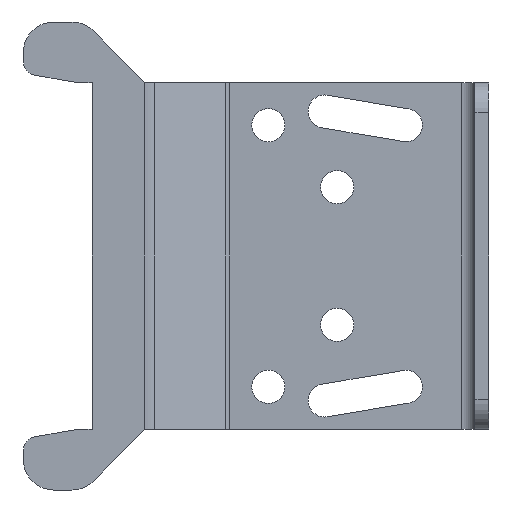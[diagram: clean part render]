
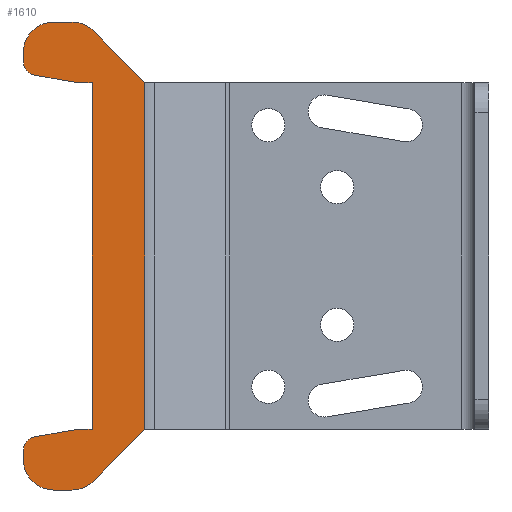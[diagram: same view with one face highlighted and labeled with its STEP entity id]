
A CAD part, left-side view. The second image highlights one B-rep face of the part: STEP entity #1610.
In plain terms, the highlighted planar face has unit normal (-1, 0, 0).
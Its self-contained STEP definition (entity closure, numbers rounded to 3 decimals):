
#1 = ORIENTED_EDGE ( 'NONE', *, *, #1350, .F. ) ;
#6 = ORIENTED_EDGE ( 'NONE', *, *, #1352, .F. ) ;
#8 = ORIENTED_EDGE ( 'NONE', *, *, #1349, .T. ) ;
#13 = ORIENTED_EDGE ( 'NONE', *, *, #1351, .T. ) ;
#14 = ORIENTED_EDGE ( 'NONE', *, *, #1357, .F. ) ;
#16 = ORIENTED_EDGE ( 'NONE', *, *, #1346, .F. ) ;
#19 = ORIENTED_EDGE ( 'NONE', *, *, #1356, .F. ) ;
#23 = ORIENTED_EDGE ( 'NONE', *, *, #1416, .F. ) ;
#25 = ORIENTED_EDGE ( 'NONE', *, *, #1353, .T. ) ;
#29 = ORIENTED_EDGE ( 'NONE', *, *, #1347, .T. ) ;
#30 = ORIENTED_EDGE ( 'NONE', *, *, #1355, .T. ) ;
#32 = ORIENTED_EDGE ( 'NONE', *, *, #1421, .F. ) ;
#33 = ORIENTED_EDGE ( 'NONE', *, *, #1348, .T. ) ;
#37 = ORIENTED_EDGE ( 'NONE', *, *, #1423, .T. ) ;
#38 = ORIENTED_EDGE ( 'NONE', *, *, #1354, .F. ) ;
#40 = ORIENTED_EDGE ( 'NONE', *, *, #1415, .T. ) ;
#44 = ORIENTED_EDGE ( 'NONE', *, *, #1358, .F. ) ;
#45 = ORIENTED_EDGE ( 'NONE', *, *, #1418, .T. ) ;
#92 = VECTOR ( 'NONE', #744, 1000. ) ;
#102 = LINE ( 'NONE', #755, #222 ) ;
#109 = VECTOR ( 'NONE', #749, 1000. ) ;
#121 = LINE ( 'NONE', #748, #92 ) ;
#140 = CIRCLE ( 'NONE', #1275, 5.5 ) ;
#146 = LINE ( 'NONE', #742, #256 ) ;
#196 = LINE ( 'NONE', #728, #239 ) ;
#198 = LINE ( 'NONE', #739, #259 ) ;
#209 = VECTOR ( 'NONE', #743, 1000. ) ;
#217 = VECTOR ( 'NONE', #738, 1000. ) ;
#222 = VECTOR ( 'NONE', #761, 1000. ) ;
#228 = VECTOR ( 'NONE', #760, 1000. ) ;
#229 = CIRCLE ( 'NONE', #1274, 5.5 ) ;
#239 = VECTOR ( 'NONE', #736, 1000. ) ;
#240 = LINE ( 'NONE', #734, #262 ) ;
#253 = LINE ( 'NONE', #741, #209 ) ;
#256 = VECTOR ( 'NONE', #737, 1000. ) ;
#259 = VECTOR ( 'NONE', #740, 1000. ) ;
#260 = LINE ( 'NONE', #731, #217 ) ;
#262 = VECTOR ( 'NONE', #735, 1000. ) ;
#266 = LINE ( 'NONE', #753, #109 ) ;
#267 = LINE ( 'NONE', #759, #228 ) ;
#276 = CIRCLE ( 'NONE', #1276, 2.5 ) ;
#281 = VECTOR ( 'NONE', #829, 1000. ) ;
#282 = CIRCLE ( 'NONE', #1263, 5.5 ) ;
#285 = VECTOR ( 'NONE', #820, 1000. ) ;
#292 = LINE ( 'NONE', #813, #285 ) ;
#293 = CIRCLE ( 'NONE', #1262, 5.5 ) ;
#296 = LINE ( 'NONE', #833, #281 ) ;
#300 = CIRCLE ( 'NONE', #1261, 2.5 ) ;
#431 = PLANE ( 'NONE',  #1236 ) ;
#432 = CARTESIAN_POINT ( 'NONE',  ( -7.63, 62., 31.5 ) ) ;
#437 = DIRECTION ( 'NONE',  ( -1., 0., 0. ) ) ;
#438 = DIRECTION ( 'NONE',  ( 0., -1., 0. ) ) ;
#460 = CARTESIAN_POINT ( 'NONE',  ( -7.63, 84.5, 37. ) ) ;
#462 = CARTESIAN_POINT ( 'NONE',  ( -7.63, 75.701, 42.5 ) ) ;
#463 = CARTESIAN_POINT ( 'NONE',  ( -7.63, 74.5, 31.441 ) ) ;
#466 = CARTESIAN_POINT ( 'NONE',  ( -7.63, 72., 31.441 ) ) ;
#467 = CARTESIAN_POINT ( 'NONE',  ( -7.63, 75.701, -42.5 ) ) ;
#469 = CARTESIAN_POINT ( 'NONE',  ( -7.63, 72., -31.441 ) ) ;
#470 = CARTESIAN_POINT ( 'NONE',  ( -7.63, 62.423, -31.5 ) ) ;
#472 = CARTESIAN_POINT ( 'NONE',  ( -7.63, 84.5, -35.302 ) ) ;
#477 = CARTESIAN_POINT ( 'NONE',  ( -7.63, 84.5, 35.302 ) ) ;
#478 = CARTESIAN_POINT ( 'NONE',  ( -7.63, 82.434, 32.84 ) ) ;
#479 = CARTESIAN_POINT ( 'NONE',  ( -7.63, 79., 42.5 ) ) ;
#485 = CARTESIAN_POINT ( 'NONE',  ( -7.63, 74.5, -31.441 ) ) ;
#486 = CARTESIAN_POINT ( 'NONE',  ( -7.63, 79., -42.5 ) ) ;
#490 = CARTESIAN_POINT ( 'NONE',  ( -7.63, 82.434, -32.84 ) ) ;
#491 = CARTESIAN_POINT ( 'NONE',  ( -7.63, 71.812, 40.889 ) ) ;
#493 = CARTESIAN_POINT ( 'NONE',  ( -7.63, 71.812, -40.889 ) ) ;
#512 = CARTESIAN_POINT ( 'NONE',  ( -7.63, 84.5, -37. ) ) ;
#515 = CARTESIAN_POINT ( 'NONE',  ( -7.63, 62.423, 31.5 ) ) ;
#728 = CARTESIAN_POINT ( 'NONE',  ( -7.63, 62., 31.441 ) ) ;
#731 = CARTESIAN_POINT ( 'NONE',  ( -7.63, 72., 31.5 ) ) ;
#734 = CARTESIAN_POINT ( 'NONE',  ( -7.63, 84.5, 33.204 ) ) ;
#735 = DIRECTION ( 'NONE',  ( 0., 0.985, 0.174 ) ) ;
#736 = DIRECTION ( 'NONE',  ( 0., -1., 0. ) ) ;
#737 = DIRECTION ( 'NONE',  ( 0., 0., 1. ) ) ;
#738 = DIRECTION ( 'NONE',  ( 0., 0., -1. ) ) ;
#739 = CARTESIAN_POINT ( 'NONE',  ( -7.63, 62., -31.441 ) ) ;
#740 = DIRECTION ( 'NONE',  ( 0., 1., 0. ) ) ;
#741 = CARTESIAN_POINT ( 'NONE',  ( -7.63, 84.5, -33.204 ) ) ;
#742 = CARTESIAN_POINT ( 'NONE',  ( -7.63, 84.5, -42.5 ) ) ;
#743 = DIRECTION ( 'NONE',  ( 0., -0.985, 0.174 ) ) ;
#744 = DIRECTION ( 'NONE',  ( 0., 1., 0. ) ) ;
#745 = CARTESIAN_POINT ( 'NONE',  ( -7.63, 82., -35.302 ) ) ;
#746 = DIRECTION ( 'NONE',  ( -1., 0., 0. ) ) ;
#747 = DIRECTION ( 'NONE',  ( 0., -1., 0. ) ) ;
#748 = CARTESIAN_POINT ( 'NONE',  ( -7.63, 73.423, -42.5 ) ) ;
#749 = DIRECTION ( 'NONE',  ( 0., 0.707, -0.707 ) ) ;
#750 = CARTESIAN_POINT ( 'NONE',  ( -7.63, 79., -37. ) ) ;
#751 = DIRECTION ( 'NONE',  ( -1., 0., 0. ) ) ;
#752 = DIRECTION ( 'NONE',  ( 0., -1., 0. ) ) ;
#753 = CARTESIAN_POINT ( 'NONE',  ( -7.63, 62.423, -31.5 ) ) ;
#755 = CARTESIAN_POINT ( 'NONE',  ( -7.63, 62.423, 31.5 ) ) ;
#756 = CARTESIAN_POINT ( 'NONE',  ( -7.63, 75.701, -37. ) ) ;
#757 = DIRECTION ( 'NONE',  ( -1., 0., 0. ) ) ;
#758 = DIRECTION ( 'NONE',  ( 0., -1., 0. ) ) ;
#759 = CARTESIAN_POINT ( 'NONE',  ( -7.63, 62.423, 31.5 ) ) ;
#760 = DIRECTION ( 'NONE',  ( 0., 0., -1. ) ) ;
#761 = DIRECTION ( 'NONE',  ( 0., -0.707, -0.707 ) ) ;
#813 = CARTESIAN_POINT ( 'NONE',  ( -7.63, 73.423, 42.5 ) ) ;
#820 = DIRECTION ( 'NONE',  ( 0., -1., 0. ) ) ;
#829 = DIRECTION ( 'NONE',  ( 0., 0., 1. ) ) ;
#830 = CARTESIAN_POINT ( 'NONE',  ( -7.63, 75.701, 37. ) ) ;
#831 = DIRECTION ( 'NONE',  ( -1., 0., 0. ) ) ;
#832 = DIRECTION ( 'NONE',  ( 0., -1., 0. ) ) ;
#833 = CARTESIAN_POINT ( 'NONE',  ( -7.63, 84.5, 42.5 ) ) ;
#835 = CARTESIAN_POINT ( 'NONE',  ( -7.63, 79., 37. ) ) ;
#836 = DIRECTION ( 'NONE',  ( -1., 0., 0. ) ) ;
#837 = DIRECTION ( 'NONE',  ( 0., -1., 0. ) ) ;
#839 = CARTESIAN_POINT ( 'NONE',  ( -7.63, 82., 35.302 ) ) ;
#840 = DIRECTION ( 'NONE',  ( -1., 0., 0. ) ) ;
#841 = DIRECTION ( 'NONE',  ( 0., -1., 0. ) ) ;
#1069 = EDGE_LOOP ( 'NONE', ( #16, #29, #33, #8, #1, #13, #6, #25, #38, #30, #19, #14, #44, #40, #23, #45, #32, #37 ) ) ;
#1236 = AXIS2_PLACEMENT_3D ( 'NONE', #432, #437, #438 ) ;
#1261 = AXIS2_PLACEMENT_3D ( 'NONE', #839, #840, #841 ) ;
#1262 = AXIS2_PLACEMENT_3D ( 'NONE', #835, #836, #837 ) ;
#1263 = AXIS2_PLACEMENT_3D ( 'NONE', #830, #831, #832 ) ;
#1274 = AXIS2_PLACEMENT_3D ( 'NONE', #756, #757, #758 ) ;
#1275 = AXIS2_PLACEMENT_3D ( 'NONE', #750, #751, #752 ) ;
#1276 = AXIS2_PLACEMENT_3D ( 'NONE', #745, #746, #747 ) ;
#1346 = EDGE_CURVE ( 'NONE', #1712, #1731, #240, .T. ) ;
#1347 = EDGE_CURVE ( 'NONE', #1712, #1709, #196, .T. ) ;
#1348 = EDGE_CURVE ( 'NONE', #1709, #1713, #260, .T. ) ;
#1349 = EDGE_CURVE ( 'NONE', #1713, #1730, #198, .T. ) ;
#1350 = EDGE_CURVE ( 'NONE', #1736, #1730, #253, .T. ) ;
#1351 = EDGE_CURVE ( 'NONE', #1736, #1716, #276, .T. ) ;
#1352 = EDGE_CURVE ( 'NONE', #1759, #1716, #146, .T. ) ;
#1353 = EDGE_CURVE ( 'NONE', #1759, #1732, #140, .T. ) ;
#1354 = EDGE_CURVE ( 'NONE', #1710, #1732, #121, .T. ) ;
#1355 = EDGE_CURVE ( 'NONE', #1710, #1739, #229, .T. ) ;
#1356 = EDGE_CURVE ( 'NONE', #1714, #1739, #266, .T. ) ;
#1357 = EDGE_CURVE ( 'NONE', #1762, #1714, #267, .T. ) ;
#1358 = EDGE_CURVE ( 'NONE', #1737, #1762, #102, .T. ) ;
#1415 = EDGE_CURVE ( 'NONE', #1737, #1702, #282, .T. ) ;
#1416 = EDGE_CURVE ( 'NONE', #1724, #1702, #292, .T. ) ;
#1418 = EDGE_CURVE ( 'NONE', #1724, #1699, #293, .T. ) ;
#1421 = EDGE_CURVE ( 'NONE', #1722, #1699, #296, .T. ) ;
#1423 = EDGE_CURVE ( 'NONE', #1722, #1731, #300, .T. ) ;
#1610 = ADVANCED_FACE ( 'NONE', ( #1944 ), #431, .T. ) ;
#1699 = VERTEX_POINT ( 'NONE', #460 ) ;
#1702 = VERTEX_POINT ( 'NONE', #462 ) ;
#1709 = VERTEX_POINT ( 'NONE', #466 ) ;
#1710 = VERTEX_POINT ( 'NONE', #467 ) ;
#1712 = VERTEX_POINT ( 'NONE', #463 ) ;
#1713 = VERTEX_POINT ( 'NONE', #469 ) ;
#1714 = VERTEX_POINT ( 'NONE', #470 ) ;
#1716 = VERTEX_POINT ( 'NONE', #472 ) ;
#1722 = VERTEX_POINT ( 'NONE', #477 ) ;
#1724 = VERTEX_POINT ( 'NONE', #479 ) ;
#1730 = VERTEX_POINT ( 'NONE', #485 ) ;
#1731 = VERTEX_POINT ( 'NONE', #478 ) ;
#1732 = VERTEX_POINT ( 'NONE', #486 ) ;
#1736 = VERTEX_POINT ( 'NONE', #490 ) ;
#1737 = VERTEX_POINT ( 'NONE', #491 ) ;
#1739 = VERTEX_POINT ( 'NONE', #493 ) ;
#1759 = VERTEX_POINT ( 'NONE', #512 ) ;
#1762 = VERTEX_POINT ( 'NONE', #515 ) ;
#1944 = FACE_OUTER_BOUND ( 'NONE', #1069, .T. ) ;
